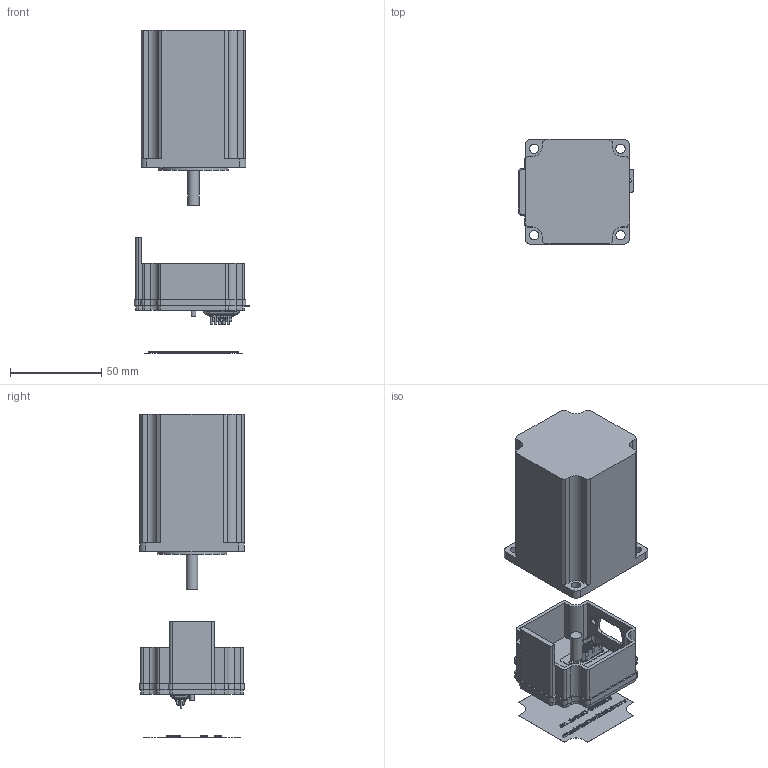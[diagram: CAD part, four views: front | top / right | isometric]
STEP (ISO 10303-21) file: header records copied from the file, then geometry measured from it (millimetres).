
FILE_DESCRIPTION(/* description */ ('Alibre Inc.'),/* implementation_level */ '2;1');
FILE_NAME(/* name */ 'export0',/* time_stamp */ '2008-02-02T08:45:00-08:00',/* author */ (''),/* organization */ (''),/* preprocessor_version */ 'ST-DEVELOPER v10',/* originating_system */ 'Alibre',/* authorisation */ '');
FILE_SCHEMA (('ALIBRE_SCHEMA','CONFIG_CONTROL_DESIGN'));
Length unit declared in the file: inch
Products named in the file (9): ID_1
Bounding box: 63.07 x 57.4 x 176.94 mm (x, y, z)
Volume: 241957.8 mm3; surface area: 49135.1 mm2
Topology: 63 solids, 63 shells, 1779 faces, 4603 edges, 3018 vertices
Faces by surface type: plane 798, bspline 641, cylinder 289, torus 50, cone 1
Full cylindrical faces by diameter (mm): 2.489 x1, 2.87 x1, 3.175 x2, 5.08 x4, 6.35 x2, 8.89 x1, 38.1 x1
Entity records: 111408 total; most frequent: CARTESIAN_POINT 33950, ORIENTED_EDGE 12004, DIRECTION 8298, EDGE_CURVE 5972, CONSTRAINTPAIRUV 4720, VECTOR 4347, LINE 4037, VERTEX_POINT 3897
